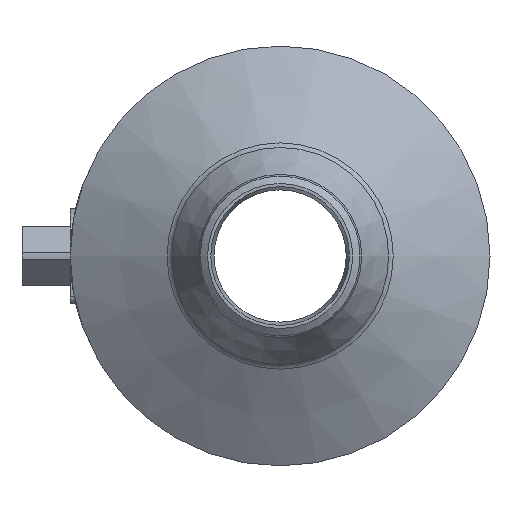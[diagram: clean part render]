
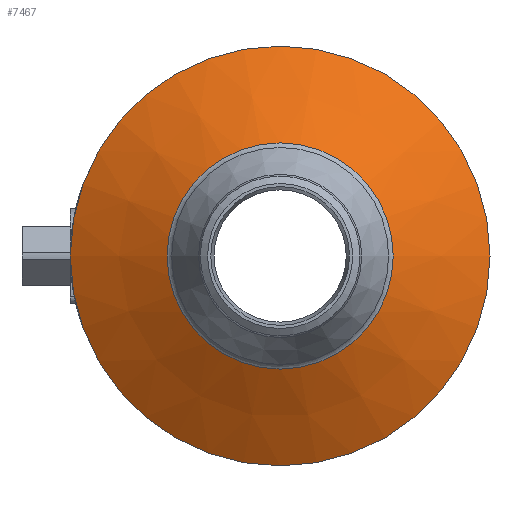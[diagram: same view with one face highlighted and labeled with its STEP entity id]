
A CAD part, left-side view. The second image highlights one B-rep face of the part: STEP entity #7467.
In plain terms, the highlighted conical face has half-angle 60 degrees and reference radius 76.946 mm.
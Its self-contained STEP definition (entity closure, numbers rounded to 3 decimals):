
#7433=CARTESIAN_POINT('',(-56.62,-53.892,0.0));
#7434=VERTEX_POINT('',#7433);
#7435=CARTESIAN_POINT('',(-56.62,0.0,0.0));
#7436=DIRECTION('',(1.0,0.0,0.0));
#7437=DIRECTION('',(0.0,-1.0,0.0));
#7438=AXIS2_PLACEMENT_3D('',#7435,#7436,#7437);
#7439=CIRCLE('',#7438,53.892);
#7440=EDGE_CURVE('',#7434,#7434,#7439,.T.);
#7448=CARTESIAN_POINT('',(-43.31,0.0,0.0));
#7449=DIRECTION('',(1.0,0.0,0.0));
#7450=DIRECTION('',(0.0,-1.0,0.0));
#7451=AXIS2_PLACEMENT_3D('',#7448,#7449,#7450);
#7452=CONICAL_SURFACE('',#7451,76.946,60.);
#7453=CARTESIAN_POINT('',(-30.0,-100.,0.0));
#7454=VERTEX_POINT('',#7453);
#7455=CARTESIAN_POINT('',(-30.0,0.0,0.0));
#7456=DIRECTION('',(1.0,0.0,0.0));
#7457=DIRECTION('',(0.0,-1.0,0.0));
#7458=AXIS2_PLACEMENT_3D('',#7455,#7456,#7457);
#7459=CIRCLE('',#7458,100.);
#7460=EDGE_CURVE('',#7454,#7454,#7459,.T.);
#7461=ORIENTED_EDGE('',*,*,#7460,.F.);
#7462=EDGE_LOOP('',(#7461));
#7463=FACE_OUTER_BOUND('',#7462,.T.);
#7464=ORIENTED_EDGE('',*,*,#7440,.T.);
#7465=EDGE_LOOP('',(#7464));
#7466=FACE_BOUND('',#7465,.T.);
#7467=ADVANCED_FACE('',(#7463,#7466),#7452,.T.);
